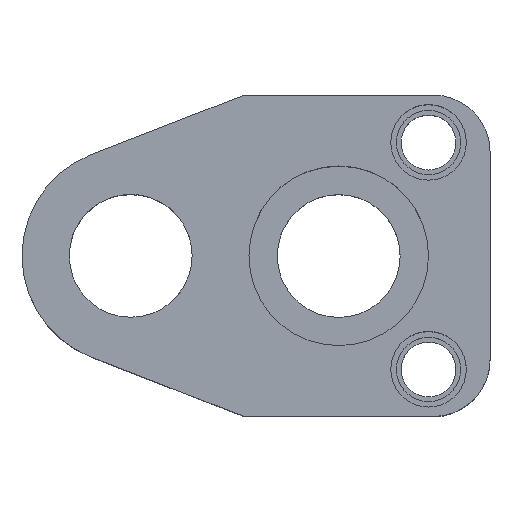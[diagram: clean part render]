
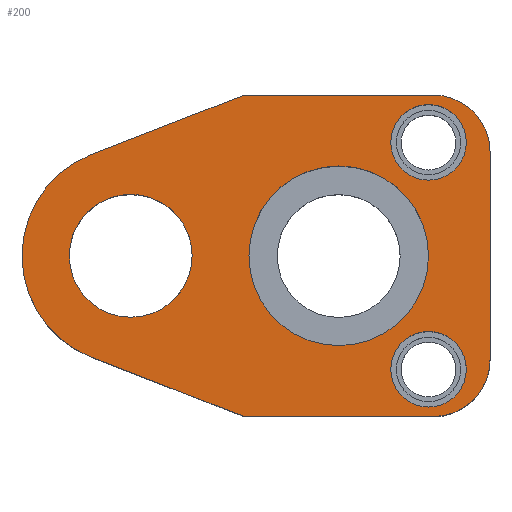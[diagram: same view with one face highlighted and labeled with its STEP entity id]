
A CAD part, top view. The second image highlights one B-rep face of the part: STEP entity #200.
In plain terms, the highlighted planar face has unit normal (0, 0, 1).
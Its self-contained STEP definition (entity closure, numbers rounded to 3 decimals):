
#106=FACE_BOUND('',#285,.T.);
#107=FACE_BOUND('',#286,.T.);
#108=FACE_BOUND('',#287,.T.);
#109=FACE_BOUND('',#288,.T.);
#110=FACE_BOUND('',#289,.T.);
#140=CIRCLE('',#746,6.);
#142=CIRCLE('',#750,6.);
#145=CIRCLE('',#756,11.5);
#154=CIRCLE('',#771,9.5);
#156=CIRCLE('',#774,9.5);
#158=CIRCLE('',#778,4.);
#159=CIRCLE('',#779,4.);
#160=CIRCLE('',#780,4.);
#161=CIRCLE('',#781,4.);
#162=CIRCLE('',#782,6.5);
#163=CIRCLE('',#783,6.5);
#200=ADVANCED_FACE('',(#106,#107,#108,#109,#110),#230,.T.);
#230=PLANE('',#784);
#285=EDGE_LOOP('',(#393,#394,#395,#396,#397,#398,#399,#400));
#286=EDGE_LOOP('',(#401,#402));
#287=EDGE_LOOP('',(#403,#404));
#288=EDGE_LOOP('',(#405,#406));
#289=EDGE_LOOP('',(#407,#408));
#393=ORIENTED_EDGE('',*,*,#579,.T.);
#394=ORIENTED_EDGE('',*,*,#561,.T.);
#395=ORIENTED_EDGE('',*,*,#565,.T.);
#396=ORIENTED_EDGE('',*,*,#568,.T.);
#397=ORIENTED_EDGE('',*,*,#571,.T.);
#398=ORIENTED_EDGE('',*,*,#574,.T.);
#399=ORIENTED_EDGE('',*,*,#586,.T.);
#400=ORIENTED_EDGE('',*,*,#582,.T.);
#401=ORIENTED_EDGE('',*,*,#609,.F.);
#402=ORIENTED_EDGE('',*,*,#610,.F.);
#403=ORIENTED_EDGE('',*,*,#611,.F.);
#404=ORIENTED_EDGE('',*,*,#612,.F.);
#405=ORIENTED_EDGE('',*,*,#607,.F.);
#406=ORIENTED_EDGE('',*,*,#603,.F.);
#407=ORIENTED_EDGE('',*,*,#613,.T.);
#408=ORIENTED_EDGE('',*,*,#614,.T.);
#500=VERTEX_POINT('',#1042);
#501=VERTEX_POINT('',#1044);
#504=VERTEX_POINT('',#1051);
#506=VERTEX_POINT('',#1057);
#508=VERTEX_POINT('',#1063);
#510=VERTEX_POINT('',#1069);
#514=VERTEX_POINT('',#1080);
#516=VERTEX_POINT('',#1086);
#530=VERTEX_POINT('',#1132);
#531=VERTEX_POINT('',#1133);
#534=VERTEX_POINT('',#1145);
#535=VERTEX_POINT('',#1146);
#536=VERTEX_POINT('',#1149);
#537=VERTEX_POINT('',#1150);
#538=VERTEX_POINT('',#1153);
#539=VERTEX_POINT('',#1154);
#561=EDGE_CURVE('',#501,#500,#653,.T.);
#565=EDGE_CURVE('',#500,#504,#140,.T.);
#568=EDGE_CURVE('',#504,#506,#658,.T.);
#571=EDGE_CURVE('',#506,#508,#142,.T.);
#574=EDGE_CURVE('',#508,#510,#662,.T.);
#579=EDGE_CURVE('',#514,#501,#667,.T.);
#582=EDGE_CURVE('',#516,#514,#145,.T.);
#586=EDGE_CURVE('',#510,#516,#672,.T.);
#603=EDGE_CURVE('',#530,#531,#154,.T.);
#607=EDGE_CURVE('',#531,#530,#156,.T.);
#609=EDGE_CURVE('',#534,#535,#158,.T.);
#610=EDGE_CURVE('',#535,#534,#159,.T.);
#611=EDGE_CURVE('',#536,#537,#160,.T.);
#612=EDGE_CURVE('',#537,#536,#161,.T.);
#613=EDGE_CURVE('',#538,#539,#162,.T.);
#614=EDGE_CURVE('',#539,#538,#163,.T.);
#653=LINE('',#1043,#699);
#658=LINE('',#1058,#704);
#662=LINE('',#1070,#708);
#667=LINE('',#1079,#713);
#672=LINE('',#1093,#718);
#699=VECTOR('',#830,1.);
#704=VECTOR('',#843,1.);
#708=VECTOR('',#855,1.);
#713=VECTOR('',#862,1.);
#718=VECTOR('',#875,1.);
#746=AXIS2_PLACEMENT_3D('',#1052,#836,#837);
#750=AXIS2_PLACEMENT_3D('',#1064,#848,#849);
#756=AXIS2_PLACEMENT_3D('',#1085,#868,#869);
#771=AXIS2_PLACEMENT_3D('',#1131,#909,#910);
#774=AXIS2_PLACEMENT_3D('',#1140,#917,#918);
#778=AXIS2_PLACEMENT_3D('',#1144,#925,#926);
#779=AXIS2_PLACEMENT_3D('',#1147,#927,#928);
#780=AXIS2_PLACEMENT_3D('',#1148,#929,#930);
#781=AXIS2_PLACEMENT_3D('',#1151,#931,#932);
#782=AXIS2_PLACEMENT_3D('',#1152,#933,#934);
#783=AXIS2_PLACEMENT_3D('',#1155,#935,#936);
#784=AXIS2_PLACEMENT_3D('',#1156,#937,#938);
#830=DIRECTION('',(1.,0.,0.));
#836=DIRECTION('',(0.,0.,1.));
#837=DIRECTION('',(-0.707,0.707,0.));
#843=DIRECTION('',(0.,1.,0.));
#848=DIRECTION('',(0.,0.,1.));
#849=DIRECTION('',(-0.707,-0.707,0.));
#855=DIRECTION('',(-1.,0.,0.));
#862=DIRECTION('',(0.932,-0.362,0.));
#868=DIRECTION('',(0.,0.,1.));
#869=DIRECTION('',(1.,0.,0.));
#875=DIRECTION('',(-0.932,-0.362,0.));
#909=DIRECTION('',(0.,0.,1.));
#910=DIRECTION('',(-1.,0.,0.));
#917=DIRECTION('',(0.,0.,1.));
#918=DIRECTION('',(1.,0.,0.));
#925=DIRECTION('',(0.,0.,1.));
#926=DIRECTION('',(1.,0.,0.));
#927=DIRECTION('',(0.,0.,1.));
#928=DIRECTION('',(-1.,0.,0.));
#929=DIRECTION('',(0.,0.,1.));
#930=DIRECTION('',(1.,0.,0.));
#931=DIRECTION('',(0.,0.,1.));
#932=DIRECTION('',(-1.,0.,0.));
#933=DIRECTION('',(0.,0.,-1.));
#934=DIRECTION('',(-1.,0.,0.));
#935=DIRECTION('',(0.,0.,-1.));
#936=DIRECTION('',(1.,0.,0.));
#937=DIRECTION('',(0.,0.,1.));
#938=DIRECTION('',(0.932,-0.362,0.));
#1042=CARTESIAN_POINT('',(32.,-17.,25.));
#1043=CARTESIAN_POINT('',(12.,-17.,25.));
#1044=CARTESIAN_POINT('',(12.,-17.,25.));
#1051=CARTESIAN_POINT('',(38.,-11.,25.));
#1052=CARTESIAN_POINT('',(32.,-11.,25.));
#1057=CARTESIAN_POINT('',(38.,11.,25.));
#1058=CARTESIAN_POINT('',(38.,11.,25.));
#1063=CARTESIAN_POINT('',(32.,17.,25.));
#1064=CARTESIAN_POINT('',(32.,11.,25.));
#1069=CARTESIAN_POINT('',(12.,17.,25.));
#1070=CARTESIAN_POINT('',(12.,17.,25.));
#1079=CARTESIAN_POINT('',(12.,-17.,25.));
#1080=CARTESIAN_POINT('',(-4.165,-10.719,25.));
#1085=CARTESIAN_POINT('',(0.,0.,25.));
#1086=CARTESIAN_POINT('',(-4.165,10.719,25.));
#1093=CARTESIAN_POINT('',(12.,17.,25.));
#1131=CARTESIAN_POINT('',(22.,0.,25.));
#1132=CARTESIAN_POINT('',(22.,-9.5,25.));
#1133=CARTESIAN_POINT('',(22.,9.5,25.));
#1140=CARTESIAN_POINT('',(22.,0.,25.));
#1144=CARTESIAN_POINT('',(31.5,12.,25.));
#1145=CARTESIAN_POINT('',(31.5,16.,25.));
#1146=CARTESIAN_POINT('',(31.5,8.,25.));
#1147=CARTESIAN_POINT('',(31.5,12.,25.));
#1148=CARTESIAN_POINT('',(31.5,-12.,25.));
#1149=CARTESIAN_POINT('',(31.5,-8.,25.));
#1150=CARTESIAN_POINT('',(31.5,-16.,25.));
#1151=CARTESIAN_POINT('',(31.5,-12.,25.));
#1152=CARTESIAN_POINT('',(0.,0.,25.));
#1153=CARTESIAN_POINT('',(0.,6.5,25.));
#1154=CARTESIAN_POINT('',(0.,-6.5,25.));
#1155=CARTESIAN_POINT('',(0.,0.,25.));
#1156=CARTESIAN_POINT('',(-4.165,-10.719,25.));
